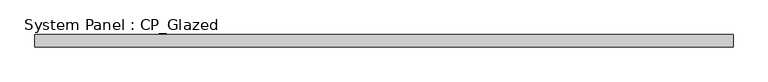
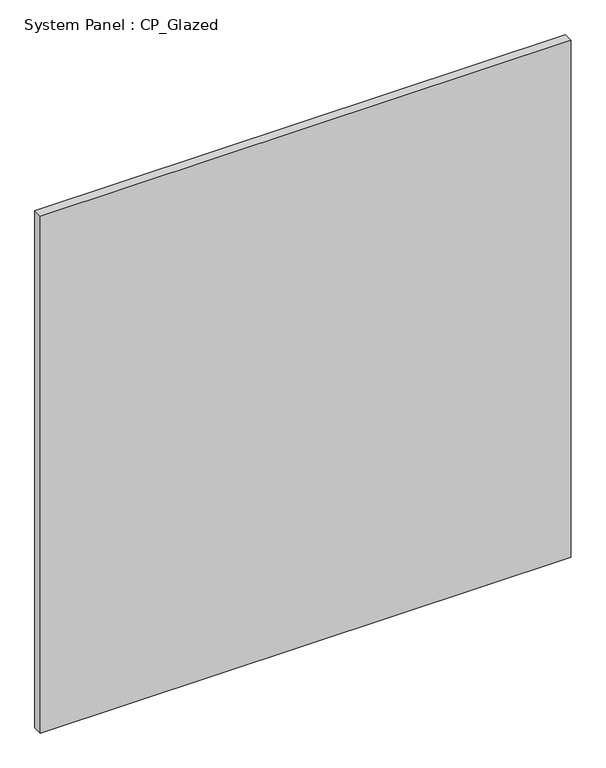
"""IFC4 building model written with IfcOpenShell, lengths in millimetres: plate geometry, System Panel : CP_Glazed."""

from ifc_helpers import new_model, si_unit, origin, origin_with_axes, place, context, project, spatial, polyline, outline, extrude, source, transform, mapped, element, save


def system_panel_cp_glazed_11ca2ac1(model_context):
    return source(origin(), model_context, "Body", "SweptSolid", [
        extrude(outline(polyline([(718.6839286, 19.05), (-718.6839286, 19.05), (-718.6839286, 44.45), (718.6839286, 44.45), (718.6839286, 19.05)])), origin_with_axes(), (0.0, 0.0, 1.0), 1479.55),
    ])


if __name__ == "__main__":
    model = new_model("IFC4")
    model_context = context("Model", 3, world=origin())
    ifc_project = project(units=[si_unit("LENGTHUNIT", "METRE", prefix="MILLI")], contexts=[model_context])
    site = spatial("IfcSite", under=ifc_project)
    building = spatial("IfcBuilding", under=site)
    placement = place(None, origin())
    system_panel_cp_glazed_shape = system_panel_cp_glazed_11ca2ac1(model_context)
    element("IfcPlate", 1, ObjectType="System Panel : CP_Glazed", at=placement, inside=building, context=model_context, shape_type="MappedRepresentation", body=[
        mapped(system_panel_cp_glazed_shape, transform((0.0, 0.0, 0.0), x_axis=(1.0, 0.0, 0.0), y_axis=(0.0, 1.0, 0.0), z_axis=(0.0, 0.0, 1.0))),
    ])
    save(model, "model.ifc")
